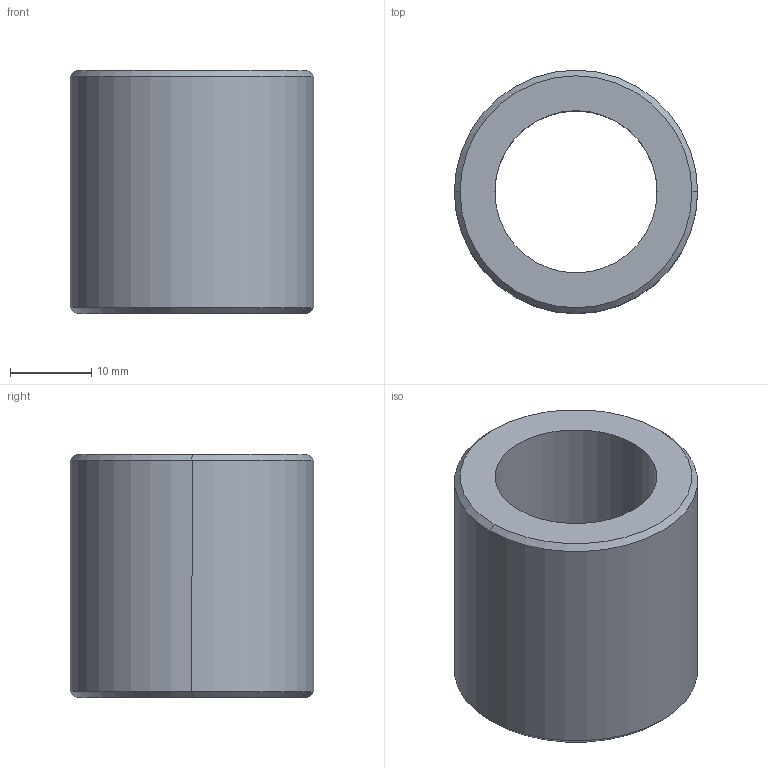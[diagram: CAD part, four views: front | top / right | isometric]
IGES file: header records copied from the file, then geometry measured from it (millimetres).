
Start section: 3D InterOp IGES (Version 21 0 1), Spatial Corp. Copyright (c) 1999-2007.
Global section: file name: DB-20.igs; native system: Spatial Corp.; preprocessor: 3D InterOp GENERIC/IGES 3.0; author: Noname; organization: Noname; date: 20220208.162836; units: millimetre
Bounding box: 30 x 30 x 30 mm (x, y, z)
Surface area: 5419.2 mm2 (no closed solid volume)
Topology: 0 solids, 0 shells, 10 faces, 40 edges, 40 vertices
Faces by surface type: revolution 8, extrusion 2
